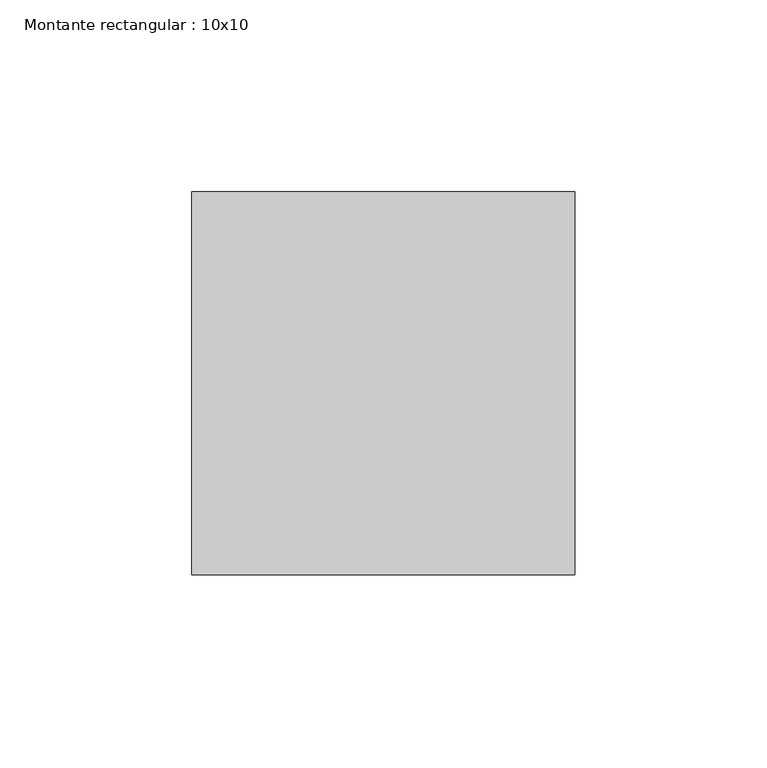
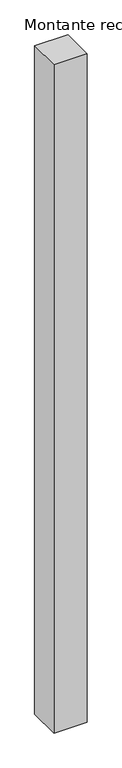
"""IFC4 building model written with IfcOpenShell, lengths in millimetres: member geometry, Montante rectangular : 10x10."""

from ifc_helpers import new_model, si_unit, frame, origin, place, context, project, spatial, polyline, outline, extrude, source, transform, mapped, element, save


def montante_rectangular_10x10_ddea4786(model_context):
    return source(origin(), model_context, "Body", "SweptSolid", [
        extrude(outline(polyline([(0.0, 50.0), (0.0, -50.0), (-100.0, -50.0), (-100.0, 50.0), (0.0, 50.0)])), frame((0.0, 0.0, -2125.0), z_axis=(0.0, 0.0, 1.0), x_axis=(1.0, 0.0, 0.0)), (0.0, 0.0, 1.0), 2125.0),
    ])


if __name__ == "__main__":
    model = new_model("IFC4")
    model_context = context("Model", 3, world=origin())
    ifc_project = project(units=[si_unit("LENGTHUNIT", "METRE", prefix="MILLI")], contexts=[model_context])
    site = spatial("IfcSite", under=ifc_project)
    building = spatial("IfcBuilding", under=site)
    placement = place(None, origin())
    montante_rectangular_10x10_shape = montante_rectangular_10x10_ddea4786(model_context)
    element("IfcMember", 1, ObjectType="Montante rectangular : 10x10", at=placement, inside=building, context=model_context, shape_type="MappedRepresentation", body=[
        mapped(montante_rectangular_10x10_shape, transform((0.0, 0.0, 0.0), x_axis=(1.0, 0.0, 0.0), y_axis=(0.0, 1.0, 0.0), z_axis=(0.0, 0.0, 1.0))),
    ])
    save(model, "model.ifc")
